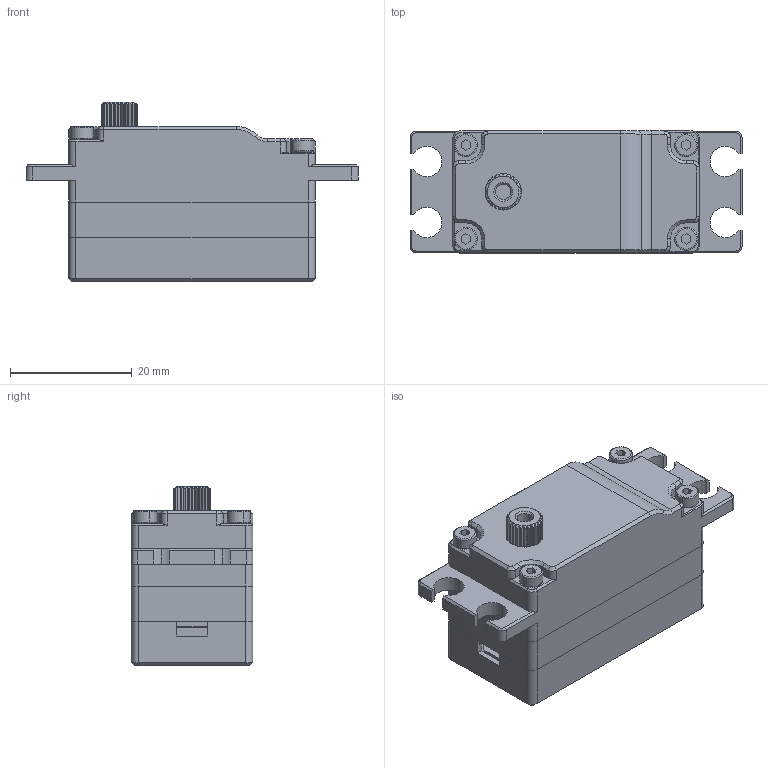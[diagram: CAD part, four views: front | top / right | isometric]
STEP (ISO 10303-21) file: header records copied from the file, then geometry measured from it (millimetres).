
FILE_DESCRIPTION (( 'STEP AP214' ), '1' );
FILE_NAME ('SV4012-12_DM_20240502.STEP', '2024-06-11T09:36:16', ( '' ), ( '' ), 'SwSTEP 2.0', 'SolidWorks 2016', '' );
FILE_SCHEMA (( 'AUTOMOTIVE_DESIGN' ));
Length unit declared in the file: millimetre
Products named in the file (1): SV4012-12_DM_20240502
Bounding box: 54.5 x 20 x 29.5 mm (x, y, z)
Surface area: 7059.6 mm2 (no closed solid volume)
Topology: 0 solids, 12 shells, 365 faces, 1174 edges, 819 vertices
Faces by surface type: plane 179, cylinder 114, cone 56, torus 16
Entity records: 17583 total; most frequent: CARTESIAN_POINT 3172, DIRECTION 2214, ORIENTED_EDGE 2052, EDGE_CURVE 1174, VERTEX_POINT 819, AXIS2_PLACEMENT_3D 795, LINE 624, VECTOR 624
